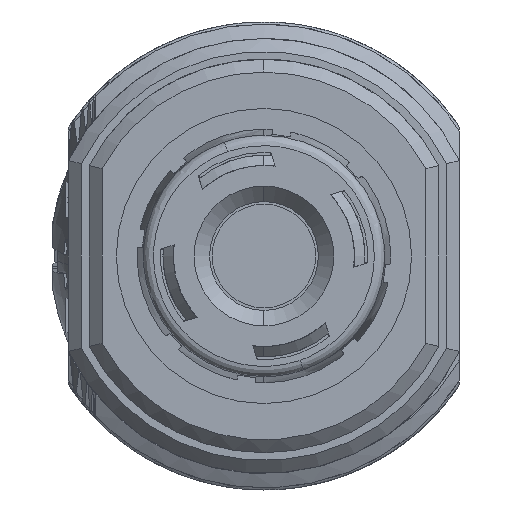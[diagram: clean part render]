
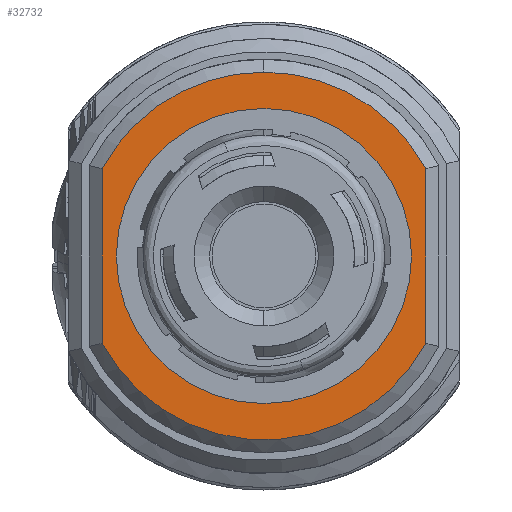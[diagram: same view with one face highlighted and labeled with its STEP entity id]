
A CAD part, front view. The second image highlights one B-rep face of the part: STEP entity #32732.
In plain terms, the highlighted planar face has unit normal (0, -1, 0).
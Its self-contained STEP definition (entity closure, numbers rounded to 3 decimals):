
#513 = CIRCLE ( 'NONE', #25478, 5.7 ) ;
#1132 = EDGE_CURVE ( 'NONE', #24341, #18741, #513, .T. ) ;
#4663 = DIRECTION ( 'NONE',  ( 0., 1., 0. ) ) ;
#5595 = ORIENTED_EDGE ( 'NONE', *, *, #11257, .T. ) ;
#6115 = LINE ( 'NONE', #40650, #34336 ) ;
#8248 = CARTESIAN_POINT ( 'NONE',  ( -77.691, -111.58, 3.477 ) ) ;
#9955 = DIRECTION ( 'NONE',  ( 0., 0., 1. ) ) ;
#10331 = EDGE_LOOP ( 'NONE', ( #36930, #53398 ) ) ;
#11257 = EDGE_CURVE ( 'NONE', #15134, #36252, #30322, .T. ) ;
#13101 = DIRECTION ( 'NONE',  ( 0., 1., 0. ) ) ;
#13739 = DIRECTION ( 'NONE',  ( 0., 0., 1. ) ) ;
#15086 = CARTESIAN_POINT ( 'NONE',  ( -71.441, -111.58, 0.108 ) ) ;
#15134 = VERTEX_POINT ( 'NONE', #21694 ) ;
#17763 = CIRCLE ( 'NONE', #47916, 5.7 ) ;
#18707 = DIRECTION ( 'NONE',  ( 1., 0., 0. ) ) ;
#18741 = VERTEX_POINT ( 'NONE', #45629 ) ;
#21680 = EDGE_CURVE ( 'NONE', #15134, #38098, #57492, .T. ) ;
#21694 = CARTESIAN_POINT ( 'NONE',  ( -65.191, -111.58, -3.261 ) ) ;
#21728 = CARTESIAN_POINT ( 'NONE',  ( -77.691, -111.58, -3.261 ) ) ;
#22389 = DIRECTION ( 'NONE',  ( 0., 1., 0. ) ) ;
#23681 = DIRECTION ( 'NONE',  ( 0., 0., 1. ) ) ;
#24288 = FACE_BOUND ( 'NONE', #10331, .T. ) ;
#24341 = VERTEX_POINT ( 'NONE', #50542 ) ;
#25307 = VERTEX_POINT ( 'NONE', #63364 ) ;
#25478 = AXIS2_PLACEMENT_3D ( 'NONE', #64242, #39487, #48947 ) ;
#26095 = CIRCLE ( 'NONE', #55221, 7.1 ) ;
#30231 = AXIS2_PLACEMENT_3D ( 'NONE', #46970, #13101, #13739 ) ;
#30322 = LINE ( 'NONE', #50205, #38050 ) ;
#30490 = EDGE_CURVE ( 'NONE', #56881, #38098, #6115, .T. ) ;
#32732 = ADVANCED_FACE ( 'NONE', ( #38315, #24288 ), #44147, .T. ) ;
#33443 = CARTESIAN_POINT ( 'NONE',  ( -71.441, -111.58, 0.108 ) ) ;
#34336 = VECTOR ( 'NONE', #34800, 1000. ) ;
#34800 = DIRECTION ( 'NONE',  ( 0., 0., -1. ) ) ;
#35657 = DIRECTION ( 'NONE',  ( 0., -1., 0. ) ) ;
#36042 = ORIENTED_EDGE ( 'NONE', *, *, #21680, .F. ) ;
#36252 = VERTEX_POINT ( 'NONE', #37368 ) ;
#36930 = ORIENTED_EDGE ( 'NONE', *, *, #39871, .T. ) ;
#37368 = CARTESIAN_POINT ( 'NONE',  ( -65.191, -111.58, 3.477 ) ) ;
#38050 = VECTOR ( 'NONE', #45310, 1000. ) ;
#38098 = VERTEX_POINT ( 'NONE', #21728 ) ;
#38315 = FACE_OUTER_BOUND ( 'NONE', #61002, .T. ) ;
#39487 = DIRECTION ( 'NONE',  ( 0., 1., 0. ) ) ;
#39871 = EDGE_CURVE ( 'NONE', #18741, #24341, #17763, .T. ) ;
#40650 = CARTESIAN_POINT ( 'NONE',  ( -77.691, -111.58, 3.642 ) ) ;
#41955 = ORIENTED_EDGE ( 'NONE', *, *, #52691, .F. ) ;
#42829 = AXIS2_PLACEMENT_3D ( 'NONE', #64015, #35657, #45746 ) ;
#44147 = PLANE ( 'NONE',  #42829 ) ;
#44275 = ORIENTED_EDGE ( 'NONE', *, *, #30490, .T. ) ;
#45310 = DIRECTION ( 'NONE',  ( 0., 0., 1. ) ) ;
#45629 = CARTESIAN_POINT ( 'NONE',  ( -65.741, -111.58, 0.108 ) ) ;
#45746 = DIRECTION ( 'NONE',  ( -1., 0., 0. ) ) ;
#46970 = CARTESIAN_POINT ( 'NONE',  ( -71.441, -111.58, 0.108 ) ) ;
#47784 = CARTESIAN_POINT ( 'NONE',  ( -71.441, -111.58, 0.108 ) ) ;
#47916 = AXIS2_PLACEMENT_3D ( 'NONE', #15086, #4663, #18707 ) ;
#48947 = DIRECTION ( 'NONE',  ( 1., 0., 0. ) ) ;
#50205 = CARTESIAN_POINT ( 'NONE',  ( -65.191, -111.58, -3.426 ) ) ;
#50542 = CARTESIAN_POINT ( 'NONE',  ( -77.141, -111.58, 0.108 ) ) ;
#50607 = ORIENTED_EDGE ( 'NONE', *, *, #53454, .F. ) ;
#52117 = CIRCLE ( 'NONE', #30231, 7.1 ) ;
#52691 = EDGE_CURVE ( 'NONE', #56881, #25307, #52117, .T. ) ;
#53398 = ORIENTED_EDGE ( 'NONE', *, *, #1132, .T. ) ;
#53454 = EDGE_CURVE ( 'NONE', #25307, #36252, #26095, .T. ) ;
#55221 = AXIS2_PLACEMENT_3D ( 'NONE', #47784, #22389, #23681 ) ;
#56452 = AXIS2_PLACEMENT_3D ( 'NONE', #33443, #58510, #9955 ) ;
#56881 = VERTEX_POINT ( 'NONE', #8248 ) ;
#57492 = CIRCLE ( 'NONE', #56452, 7.1 ) ;
#58510 = DIRECTION ( 'NONE',  ( 0., 1., 0. ) ) ;
#61002 = EDGE_LOOP ( 'NONE', ( #41955, #44275, #36042, #5595, #50607 ) ) ;
#63364 = CARTESIAN_POINT ( 'NONE',  ( -71.441, -111.58, 7.208 ) ) ;
#64015 = CARTESIAN_POINT ( 'NONE',  ( -77.691, -111.58, 7.293 ) ) ;
#64242 = CARTESIAN_POINT ( 'NONE',  ( -71.441, -111.58, 0.108 ) ) ;
